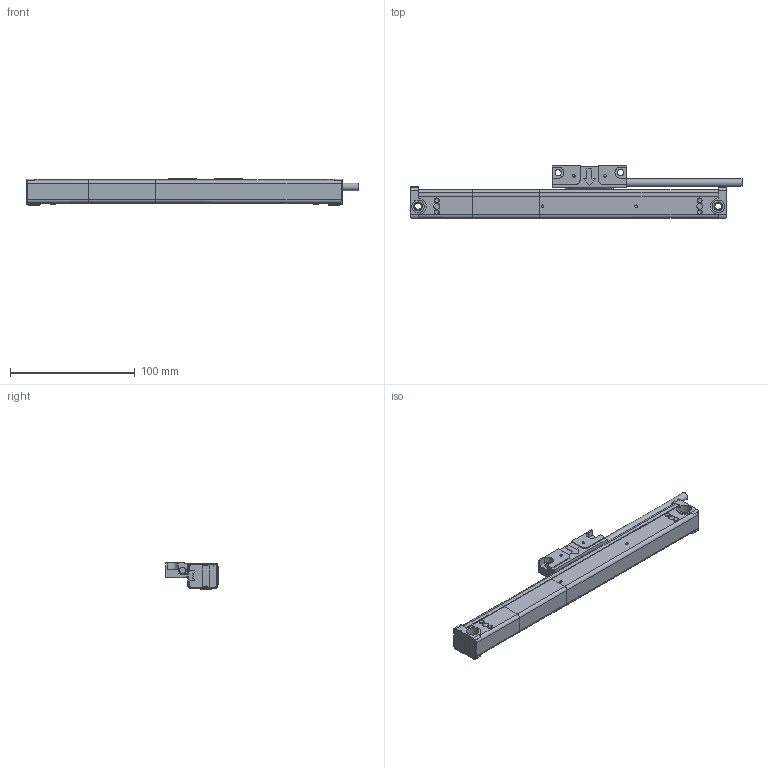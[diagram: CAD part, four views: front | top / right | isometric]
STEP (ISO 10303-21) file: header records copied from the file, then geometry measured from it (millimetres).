
FILE_DESCRIPTION( ( 'STEP AP203' ), '1' );
FILE_NAME( 'N:/Engineering/CAD_Solid/Magnescale/GBER/GB-015ER_SR138-015R.stp', '2013-03-14T10:08:22', ( ' ' ), ( ' ' ), 'XStep 1.0', ' ', ' ' );
FILE_SCHEMA( ( 'CONFIG_CONTROL_DESIGN) ( )' ) );
Length unit declared in the file: metre
Products named in the file (1): 1
Bounding box: 266.5 x 42 x 21 mm (x, y, z)
Surface area: 32730.3 mm2 (no closed solid volume)
Topology: 0 solids, 322 shells, 322 faces, 1731 edges, 1693 vertices
Faces by surface type: plane 207, cylinder 93, torus 12, cone 9, extrusion 1
Full cylindrical faces by diameter (mm): 2.013 x2, 2.113 x2, 3.242 x2, 4 x8, 4.8 x1, 5 x2, 5.8 x2, 6 x1, 9.8 x2, 10 x2
Entity records: 16770 total; most frequent: CARTESIAN_POINT 3733, DIRECTION 2812, ORIENTED_EDGE 1680, EDGE_CURVE 1680, VERTEX_POINT 1680, VECTOR 1188, LINE 1187, AXIS2_PLACEMENT_3D 812
